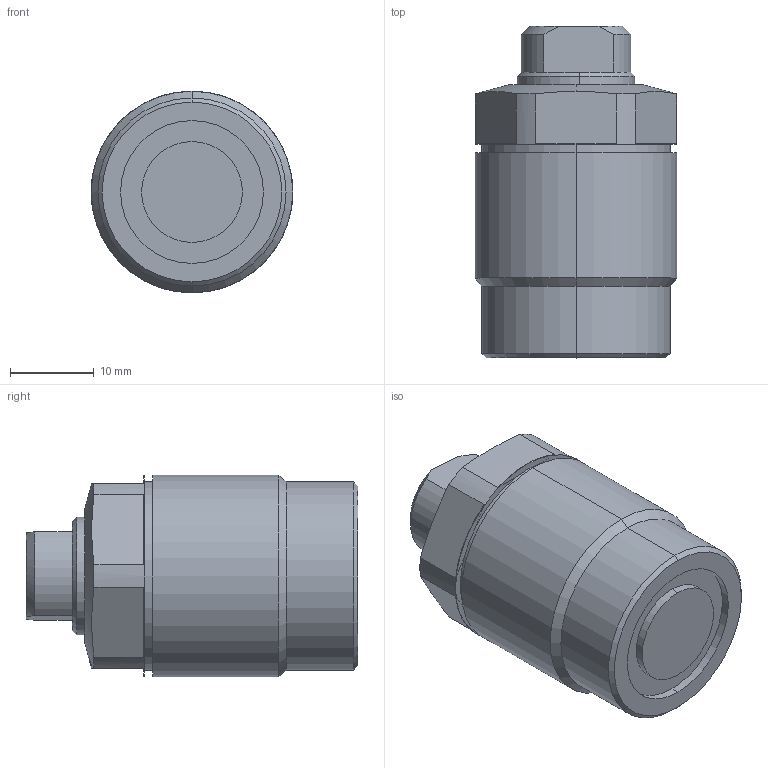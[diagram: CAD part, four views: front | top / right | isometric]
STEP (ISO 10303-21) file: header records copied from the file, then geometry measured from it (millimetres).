
FILE_DESCRIPTION (( 'STEP AP203' ), '1' );
FILE_NAME ('T03C-M242-S threaded pusher.STEP', '2022-07-09T17:37:53', ( '' ), ( '' ), 'SwSTEP 2.0', 'SolidWorks 2017', '' );
FILE_SCHEMA (( 'CONFIG_CONTROL_DESIGN' ));
Length unit declared in the file: millimetre
Products named in the file (3): T03C-M242-S part-1; T03C-M242-S part-2; T03C-M242-S threaded pusher
Assembly tree (2 placements, depth 2):
  T03C-M242-S threaded pusher
    T03C-M242-S part-1
    T03C-M242-S part-2
Bounding box: 24 x 39.5 x 24 mm (x, y, z)
Volume: 18572.6 mm3; surface area: 5362.4 mm2
Topology: 2 solids, 2 shells, 254 faces, 679 edges, 447 vertices
Faces by surface type: plane 132, bspline 89, cylinder 18, cone 15
Entity records: 12461 total; most frequent: CARTESIAN_POINT 6578, ORIENTED_EDGE 1354, DIRECTION 804, EDGE_CURVE 677, VERTEX_POINT 447, LINE 338, VECTOR 338, B_SPLINE_CURVE_WITH_KNOTS 276
